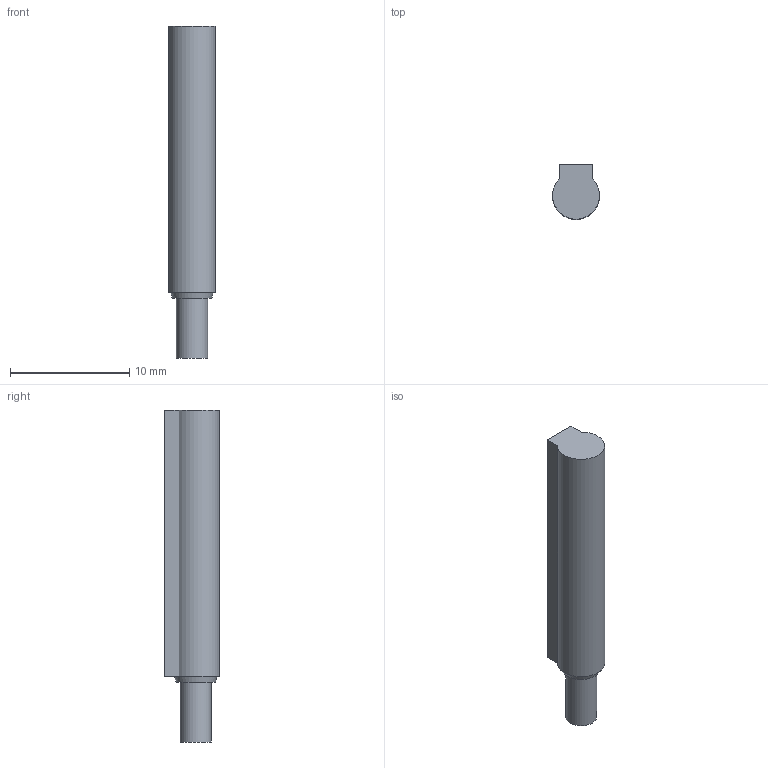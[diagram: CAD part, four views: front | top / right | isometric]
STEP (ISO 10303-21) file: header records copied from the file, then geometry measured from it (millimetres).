
FILE_DESCRIPTION(/* description */ ('STEP AP214'),/* implementation_level */ '2;1');
FILE_NAME(/* name */ 'D-M9N',/* time_stamp */ '2024-10-09T11:24:39+02:00',/* author */ ('License CC BY-ND 4.0'),/* organization */ ('CADENAS'),/* preprocessor_version */ 'ST-DEVELOPER v19.3',/* originating_system */ 'PARTsolutions',/* authorisation */ ' ');
FILE_SCHEMA (('AUTOMOTIVE_DESIGN {1 0 10303 214 3 1 1}'));
Length unit declared in the file: millimetre
Products named in the file (1): D-M9N
Bounding box: 3.94 x 4.57 x 27.8 mm (x, y, z)
Volume: 350 mm3; surface area: 423.1 mm2
Topology: 1 solids, 1 shells, 27 faces, 61 edges, 41 vertices
Faces by surface type: plane 18, cylinder 8, cone 1
Full cylindrical faces by diameter (mm): 2 x1, 2.5 x1, 2.6 x1
Entity records: 756 total; most frequent: DIRECTION 132, CARTESIAN_POINT 122, ORIENTED_EDGE 110, EDGE_CURVE 55, AXIS2_PLACEMENT_3D 49, VERTEX_POINT 39, EDGE_LOOP 36, FACE_BOUND 36
